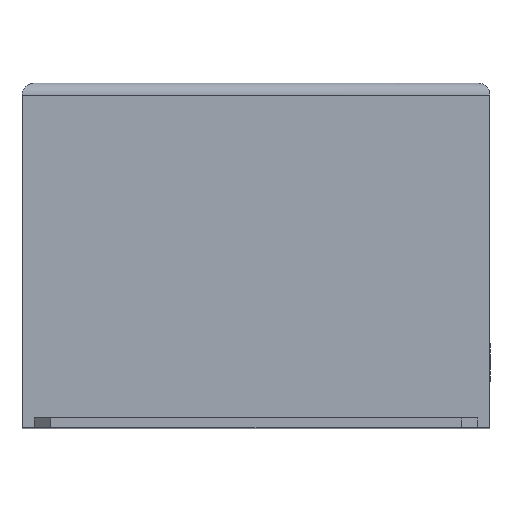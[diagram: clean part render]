
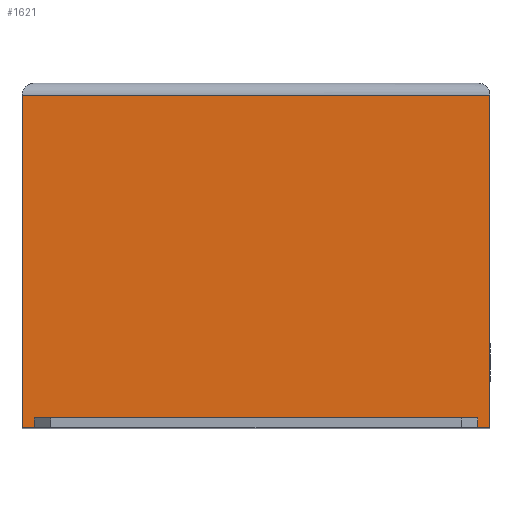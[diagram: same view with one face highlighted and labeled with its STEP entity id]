
A CAD part, top view. The second image highlights one B-rep face of the part: STEP entity #1621.
In plain terms, the highlighted planar face has unit normal (0, 0, 1).
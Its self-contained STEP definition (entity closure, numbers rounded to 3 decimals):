
#86 = ORIENTED_EDGE ( 'NONE', *, *, #1945, .T. ) ;
#111 = LINE ( 'NONE', #956, #208 ) ;
#200 = CARTESIAN_POINT ( 'NONE',  ( 27., 0., 34.2 ) ) ;
#208 = VECTOR ( 'NONE', #1896, 1000. ) ;
#239 = ORIENTED_EDGE ( 'NONE', *, *, #5458, .F. ) ;
#293 = EDGE_LOOP ( 'NONE', ( #4066, #86, #1347, #1995, #2794, #239, #3907, #2510 ) ) ;
#435 = EDGE_CURVE ( 'NONE', #4784, #3801, #4692, .T. ) ;
#928 = DIRECTION ( 'NONE',  ( 1., 0., 0. ) ) ;
#956 = CARTESIAN_POINT ( 'NONE',  ( -27., 1.2, 34.2 ) ) ;
#964 = CARTESIAN_POINT ( 'NONE',  ( -27., 0., 34.2 ) ) ;
#1285 = VECTOR ( 'NONE', #5588, 1000. ) ;
#1314 = CARTESIAN_POINT ( 'NONE',  ( 28.5, 40.5, 34.2 ) ) ;
#1347 = ORIENTED_EDGE ( 'NONE', *, *, #5568, .T. ) ;
#1457 = CARTESIAN_POINT ( 'NONE',  ( -27., 1.2, 34.2 ) ) ;
#1527 = EDGE_CURVE ( 'NONE', #3915, #3801, #3684, .T. ) ;
#1553 = LINE ( 'NONE', #3336, #2897 ) ;
#1574 = DIRECTION ( 'NONE',  ( 0., 0., -1. ) ) ;
#1621 = ADVANCED_FACE ( 'NONE', ( #3871 ), #3799, .F. ) ;
#1637 = DIRECTION ( 'NONE',  ( -1., 0., 0. ) ) ;
#1768 = VERTEX_POINT ( 'NONE', #1314 ) ;
#1797 = VECTOR ( 'NONE', #5772, 1000. ) ;
#1821 = CARTESIAN_POINT ( 'NONE',  ( 27., 1.2, 34.2 ) ) ;
#1826 = CARTESIAN_POINT ( 'NONE',  ( 28.5, 0., 34.2 ) ) ;
#1896 = DIRECTION ( 'NONE',  ( -1., 0., 0. ) ) ;
#1905 = DIRECTION ( 'NONE',  ( 0., -1., 0. ) ) ;
#1945 = EDGE_CURVE ( 'NONE', #1768, #5278, #5235, .T. ) ;
#1995 = ORIENTED_EDGE ( 'NONE', *, *, #435, .T. ) ;
#1998 = CARTESIAN_POINT ( 'NONE',  ( -27., 1.2, 34.2 ) ) ;
#2011 = CARTESIAN_POINT ( 'NONE',  ( -28.5, 40.5, 34.2 ) ) ;
#2039 = CARTESIAN_POINT ( 'NONE',  ( -28.5, 0., 34.2 ) ) ;
#2075 = DIRECTION ( 'NONE',  ( -1., 0., 0. ) ) ;
#2310 = CARTESIAN_POINT ( 'NONE',  ( -28.5, 0., 34.2 ) ) ;
#2385 = VERTEX_POINT ( 'NONE', #4969 ) ;
#2431 = VERTEX_POINT ( 'NONE', #1826 ) ;
#2510 = ORIENTED_EDGE ( 'NONE', *, *, #4459, .T. ) ;
#2608 = LINE ( 'NONE', #1821, #1797 ) ;
#2748 = VERTEX_POINT ( 'NONE', #200 ) ;
#2794 = ORIENTED_EDGE ( 'NONE', *, *, #1527, .F. ) ;
#2814 = VECTOR ( 'NONE', #928, 1000. ) ;
#2897 = VECTOR ( 'NONE', #1905, 1000. ) ;
#2920 = CARTESIAN_POINT ( 'NONE',  ( -28.5, 42., 34.2 ) ) ;
#2947 = DIRECTION ( 'NONE',  ( 0., -1., 0. ) ) ;
#3238 = LINE ( 'NONE', #2310, #2814 ) ;
#3336 = CARTESIAN_POINT ( 'NONE',  ( 28.5, 42., 34.2 ) ) ;
#3390 = LINE ( 'NONE', #2920, #3664 ) ;
#3444 = AXIS2_PLACEMENT_3D ( 'NONE', #5589, #1574, #1637 ) ;
#3664 = VECTOR ( 'NONE', #2947, 1000. ) ;
#3684 = LINE ( 'NONE', #1457, #4672 ) ;
#3799 = PLANE ( 'NONE',  #3444 ) ;
#3801 = VERTEX_POINT ( 'NONE', #964 ) ;
#3871 = FACE_OUTER_BOUND ( 'NONE', #293, .T. ) ;
#3907 = ORIENTED_EDGE ( 'NONE', *, *, #4826, .T. ) ;
#3915 = VERTEX_POINT ( 'NONE', #1998 ) ;
#3925 = EDGE_CURVE ( 'NONE', #1768, #2431, #1553, .T. ) ;
#4066 = ORIENTED_EDGE ( 'NONE', *, *, #3925, .F. ) ;
#4187 = DIRECTION ( 'NONE',  ( 0., -1., 0. ) ) ;
#4459 = EDGE_CURVE ( 'NONE', #2748, #2431, #3238, .T. ) ;
#4672 = VECTOR ( 'NONE', #4187, 1000. ) ;
#4692 = LINE ( 'NONE', #5159, #1285 ) ;
#4784 = VERTEX_POINT ( 'NONE', #2039 ) ;
#4826 = EDGE_CURVE ( 'NONE', #2385, #2748, #2608, .T. ) ;
#4969 = CARTESIAN_POINT ( 'NONE',  ( 27., 1.2, 34.2 ) ) ;
#5159 = CARTESIAN_POINT ( 'NONE',  ( -28.5, 0., 34.2 ) ) ;
#5235 = LINE ( 'NONE', #2011, #5425 ) ;
#5278 = VERTEX_POINT ( 'NONE', #5710 ) ;
#5425 = VECTOR ( 'NONE', #2075, 1000. ) ;
#5458 = EDGE_CURVE ( 'NONE', #2385, #3915, #111, .T. ) ;
#5568 = EDGE_CURVE ( 'NONE', #5278, #4784, #3390, .T. ) ;
#5588 = DIRECTION ( 'NONE',  ( 1., 0., 0. ) ) ;
#5589 = CARTESIAN_POINT ( 'NONE',  ( -28.5, 42., 34.2 ) ) ;
#5710 = CARTESIAN_POINT ( 'NONE',  ( -28.5, 40.5, 34.2 ) ) ;
#5772 = DIRECTION ( 'NONE',  ( 0., -1., 0. ) ) ;
